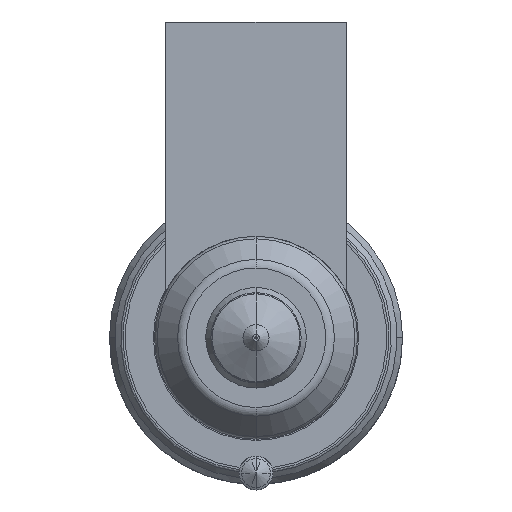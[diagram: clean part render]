
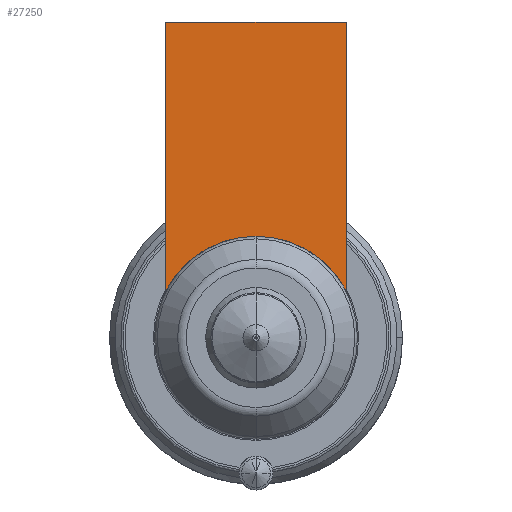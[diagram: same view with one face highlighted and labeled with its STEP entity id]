
A CAD part, front view. The second image highlights one B-rep face of the part: STEP entity #27250.
In plain terms, the highlighted planar face has unit normal (0, -1, 0).
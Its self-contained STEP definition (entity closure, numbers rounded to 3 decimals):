
#26435=CARTESIAN_POINT('',(0.,-54.,0.));
#26436=DIRECTION('',(0.,-1.,0.));
#26437=DIRECTION('',(0.,0.,1.));
#26438=AXIS2_PLACEMENT_3D('',#26435,#26436,#26437);
#26444=DIRECTION('',(1.,0.,0.));
#26445=VECTOR('',#26444,16.);
#26446=CARTESIAN_POINT('',(-8.,-54.,28.));
#26447=LINE('',#26446,#26445);
#26451=CARTESIAN_POINT('',(0.,-54.,0.));
#26452=DIRECTION('',(0.,-1.,0.));
#26453=DIRECTION('',(0.889,0.,0.458));
#26454=AXIS2_PLACEMENT_3D('',#26451,#26452,#26453);
#26606=DIRECTION('',(0.,0.,-1.));
#26607=VECTOR('',#26606,23.877);
#26608=CARTESIAN_POINT('',(8.,-54.,28.));
#26609=LINE('',#26608,#26607);
#26669=DIRECTION('',(0.,0.,-1.));
#26670=VECTOR('',#26669,23.877);
#26671=CARTESIAN_POINT('',(-8.,-54.,28.));
#26672=LINE('',#26671,#26670);
#27208=CARTESIAN_POINT('',(-8.,-54.,28.));
#27209=VERTEX_POINT('',#27208);
#27214=CARTESIAN_POINT('',(8.,-54.,28.));
#27215=VERTEX_POINT('',#27214);
#27220=CARTESIAN_POINT('',(0.,-54.,9.));
#27221=CARTESIAN_POINT('',(-8.,-54.,4.123));
#27222=VERTEX_POINT('',#27220);
#27223=VERTEX_POINT('',#27221);
#27224=CARTESIAN_POINT('',(8.,-54.,4.123));
#27225=VERTEX_POINT('',#27224);
#27233=CARTESIAN_POINT('',(0.,-54.,9.));
#27234=DIRECTION('',(0.,1.,0.));
#27235=DIRECTION('',(0.,0.,-1.));
#27236=AXIS2_PLACEMENT_3D('',#27233,#27234,#27235);
#27237=PLANE('',#27236);
#27239=ORIENTED_EDGE('',*,*,#27238,.T.);
#27241=ORIENTED_EDGE('',*,*,#27240,.F.);
#27243=ORIENTED_EDGE('',*,*,#27242,.T.);
#27245=ORIENTED_EDGE('',*,*,#27244,.T.);
#27247=ORIENTED_EDGE('',*,*,#27246,.T.);
#27248=EDGE_LOOP('',(#27239,#27241,#27243,#27245,#27247));
#27249=FACE_OUTER_BOUND('',#27248,.F.);
#27250=ADVANCED_FACE('',(#27249),#27237,.F.);
#26439=CIRCLE('',#26438,9.);
#26455=CIRCLE('',#26454,9.);
#27238=EDGE_CURVE('',#27222,#27223,#26439,.T.);
#27240=EDGE_CURVE('',#27209,#27223,#26672,.T.);
#27242=EDGE_CURVE('',#27209,#27215,#26447,.T.);
#27244=EDGE_CURVE('',#27215,#27225,#26609,.T.);
#27246=EDGE_CURVE('',#27225,#27222,#26455,.T.);
